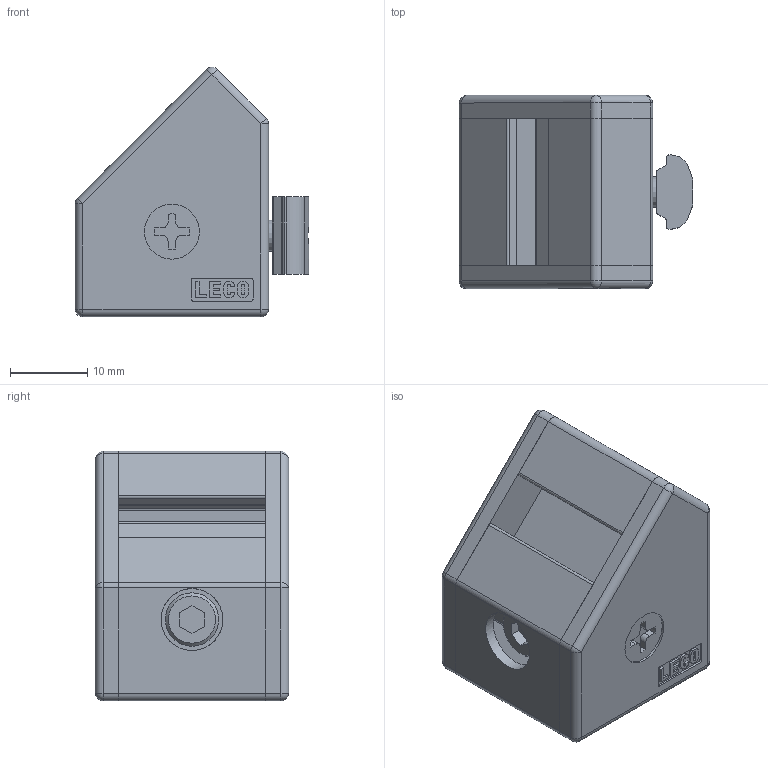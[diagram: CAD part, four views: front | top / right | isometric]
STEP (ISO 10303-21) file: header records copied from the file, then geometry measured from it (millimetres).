
FILE_DESCRIPTION(('STEP AP214'),'1');
FILE_NAME('PB22-L25.stp','2017-07-19T05:34:06',(' '),(' '),'Spatial InterOp 3D',' ',' ');
FILE_SCHEMA(('automotive_design'));
Length unit declared in the file: millimetre
Products named in the file (6): PB22-L25; PB22-L19; E25P-L; E25P-R; ねじ: 穴付き - M4.0 x 22.0; NF25-M4
Assembly tree (5 placements, depth 2):
  PB22-L25
    PB22-L19
    E25P-L
    E25P-R
    ねじ: 穴付き - M4.0 x 22.0
    NF25-M4
Bounding box: 30.2 x 25 x 32.26 mm (x, y, z)
Volume: 8864.6 mm3; surface area: 9717.6 mm2
Topology: 5 solids, 5 shells, 369 faces, 1009 edges, 656 vertices
Faces by surface type: cylinder 185, plane 172, sphere 10, cone 2
Full cylindrical faces by diameter (mm): 4 x2, 4.5 x2, 6.9 x1, 7.1 x2, 8 x1
Entity records: 14776 total; most frequent: CARTESIAN_POINT 2113, DIRECTION 2085, ORIENTED_EDGE 1970, EDGE_CURVE 985, AXIS2_PLACEMENT_3D 738, VERTEX_POINT 652, LINE 609, VECTOR 609
